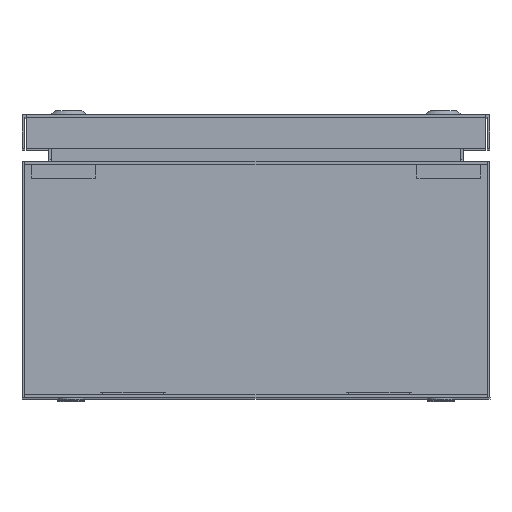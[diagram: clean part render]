
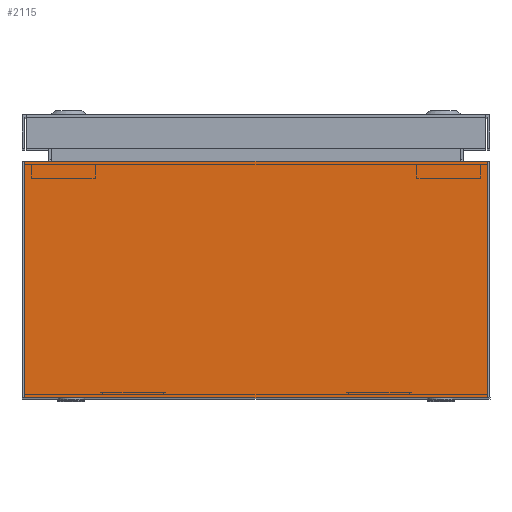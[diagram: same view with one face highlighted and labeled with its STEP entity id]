
A CAD part, top view. The second image highlights one B-rep face of the part: STEP entity #2115.
In plain terms, the highlighted planar face has unit normal (0, 0, 1).
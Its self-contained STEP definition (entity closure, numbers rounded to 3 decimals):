
#404 = VERTEX_POINT('',#405);
#405 = CARTESIAN_POINT('',(98.729,-1.2,200.));
#411 = EDGE_CURVE('',#404,#412,#414,.T.);
#412 = VERTEX_POINT('',#413);
#413 = CARTESIAN_POINT('',(-98.729,-1.2,200.));
#414 = LINE('',#415,#416);
#415 = CARTESIAN_POINT('',(2100.,-1.2,200.));
#416 = VECTOR('',#417,1.);
#417 = DIRECTION('',(-1.,0.,0.));
#1345 = EDGE_CURVE('',#1346,#404,#1348,.T.);
#1346 = VERTEX_POINT('',#1347);
#1347 = CARTESIAN_POINT('',(98.729,99.8,200.));
#1348 = LINE('',#1349,#1350);
#1349 = CARTESIAN_POINT('',(98.729,98.,200.));
#1350 = VECTOR('',#1351,1.);
#1351 = DIRECTION('',(0.,-1.,0.));
#2011 = EDGE_CURVE('',#412,#2012,#2014,.T.);
#2012 = VERTEX_POINT('',#2013);
#2013 = CARTESIAN_POINT('',(-98.729,99.8,200.));
#2014 = LINE('',#2015,#2016);
#2015 = CARTESIAN_POINT('',(-98.729,98.,200.));
#2016 = VECTOR('',#2017,1.);
#2017 = DIRECTION('',(0.,1.,0.));
#2115 = ADVANCED_FACE('',(#2116),#2127,.F.);
#2116 = FACE_BOUND('',#2117,.T.);
#2117 = EDGE_LOOP('',(#2118,#2119,#2120,#2121));
#2118 = ORIENTED_EDGE('',*,*,#2011,.F.);
#2119 = ORIENTED_EDGE('',*,*,#411,.F.);
#2120 = ORIENTED_EDGE('',*,*,#1345,.F.);
#2121 = ORIENTED_EDGE('',*,*,#2122,.T.);
#2122 = EDGE_CURVE('',#1346,#2012,#2123,.T.);
#2123 = LINE('',#2124,#2125);
#2124 = CARTESIAN_POINT('',(2100.,99.8,200.));
#2125 = VECTOR('',#2126,1.);
#2126 = DIRECTION('',(-1.,0.,0.));
#2127 = PLANE('',#2128);
#2128 = AXIS2_PLACEMENT_3D('',#2129,#2130,#2131);
#2129 = CARTESIAN_POINT('',(2100.,98.,200.));
#2130 = DIRECTION('',(0.,0.,-1.));
#2131 = DIRECTION('',(0.,-1.,0.));
